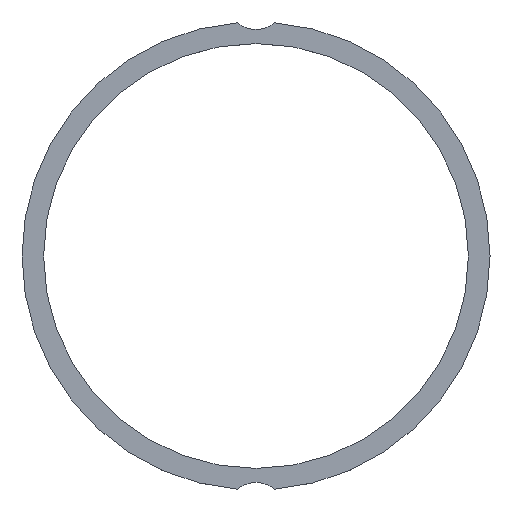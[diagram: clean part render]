
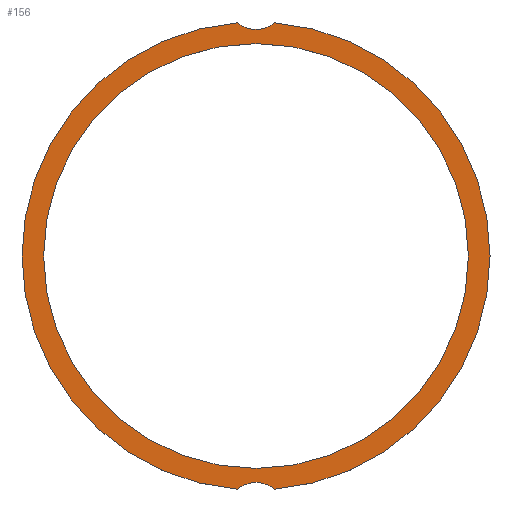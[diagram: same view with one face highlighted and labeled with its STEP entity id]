
A CAD part, top view. The second image highlights one B-rep face of the part: STEP entity #156.
In plain terms, the highlighted planar face has unit normal (0, 0, 1).
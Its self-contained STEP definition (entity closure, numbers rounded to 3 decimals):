
#42 = VERTEX_POINT('',#43);
#43 = CARTESIAN_POINT('',(57.632,113.782,15.4));
#49 = EDGE_CURVE('',#50,#42,#52,.T.);
#50 = VERTEX_POINT('',#51);
#51 = CARTESIAN_POINT('',(14.368,113.782,15.4));
#52 = CIRCLE('',#53,21.7);
#53 = AXIS2_PLACEMENT_3D('',#54,#55,#56);
#54 = CARTESIAN_POINT('',(36.,115.5,15.4));
#55 = DIRECTION('',(0.,0.,1.));
#56 = DIRECTION('',(1.,0.,-0.));
#91 = EDGE_CURVE('',#92,#42,#94,.T.);
#92 = VERTEX_POINT('',#93);
#93 = CARTESIAN_POINT('',(57.632,117.218,15.4));
#94 = CIRCLE('',#95,2.65);
#95 = AXIS2_PLACEMENT_3D('',#96,#97,#98);
#96 = CARTESIAN_POINT('',(59.65,115.5,15.4));
#97 = DIRECTION('',(0.,0.,1.));
#98 = DIRECTION('',(1.,0.,-0.));
#156 = ADVANCED_FACE('',(#157,#186),#197,.T.);
#157 = FACE_BOUND('',#158,.T.);
#158 = EDGE_LOOP('',(#159,#168,#169,#170,#179));
#159 = ORIENTED_EDGE('',*,*,#160,.F.);
#160 = EDGE_CURVE('',#50,#161,#163,.T.);
#161 = VERTEX_POINT('',#162);
#162 = CARTESIAN_POINT('',(15.,115.5,15.4));
#163 = CIRCLE('',#164,2.65);
#164 = AXIS2_PLACEMENT_3D('',#165,#166,#167);
#165 = CARTESIAN_POINT('',(12.35,115.5,15.4));
#166 = DIRECTION('',(0.,0.,1.));
#167 = DIRECTION('',(1.,0.,-0.));
#168 = ORIENTED_EDGE('',*,*,#49,.T.);
#169 = ORIENTED_EDGE('',*,*,#91,.F.);
#170 = ORIENTED_EDGE('',*,*,#171,.T.);
#171 = EDGE_CURVE('',#92,#172,#174,.T.);
#172 = VERTEX_POINT('',#173);
#173 = CARTESIAN_POINT('',(14.368,117.218,15.4));
#174 = CIRCLE('',#175,21.7);
#175 = AXIS2_PLACEMENT_3D('',#176,#177,#178);
#176 = CARTESIAN_POINT('',(36.,115.5,15.4));
#177 = DIRECTION('',(0.,0.,1.));
#178 = DIRECTION('',(1.,0.,-0.));
#179 = ORIENTED_EDGE('',*,*,#180,.F.);
#180 = EDGE_CURVE('',#161,#172,#181,.T.);
#181 = CIRCLE('',#182,2.65);
#182 = AXIS2_PLACEMENT_3D('',#183,#184,#185);
#183 = CARTESIAN_POINT('',(12.35,115.5,15.4));
#184 = DIRECTION('',(0.,0.,1.));
#185 = DIRECTION('',(1.,0.,-0.));
#186 = FACE_BOUND('',#187,.T.);
#187 = EDGE_LOOP('',(#188));
#188 = ORIENTED_EDGE('',*,*,#189,.F.);
#189 = EDGE_CURVE('',#190,#190,#192,.T.);
#190 = VERTEX_POINT('',#191);
#191 = CARTESIAN_POINT('',(55.7,115.5,15.4));
#192 = CIRCLE('',#193,19.7);
#193 = AXIS2_PLACEMENT_3D('',#194,#195,#196);
#194 = CARTESIAN_POINT('',(36.,115.5,15.4));
#195 = DIRECTION('',(0.,0.,1.));
#196 = DIRECTION('',(1.,0.,-0.));
#197 = PLANE('',#198);
#198 = AXIS2_PLACEMENT_3D('',#199,#200,#201);
#199 = CARTESIAN_POINT('',(36.,115.5,15.4));
#200 = DIRECTION('',(0.,0.,1.));
#201 = DIRECTION('',(1.,0.,-0.));
